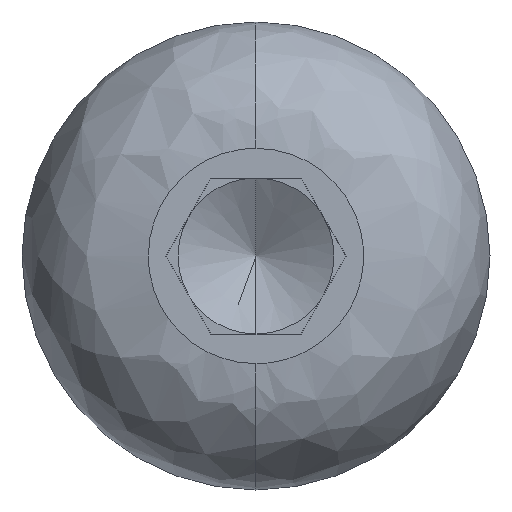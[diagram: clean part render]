
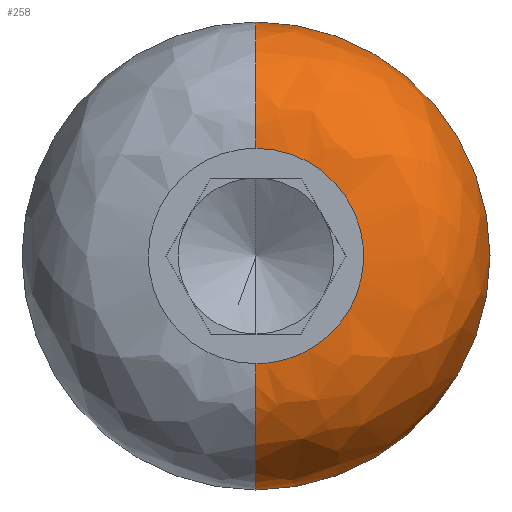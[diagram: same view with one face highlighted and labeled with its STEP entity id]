
A CAD part, left-side view. The second image highlights one B-rep face of the part: STEP entity #258.
In plain terms, the highlighted free-form (B-spline) face has degree [3, 3] with [4, 4] control points.
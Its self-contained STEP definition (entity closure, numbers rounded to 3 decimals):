
#16 = DIRECTION ( 'NONE',  ( 0., 0., -1. ) ) ;
#23 = DIRECTION ( 'NONE',  ( 0., -1., 0. ) ) ;
#42 = EDGE_LOOP ( 'NONE', ( #84, #428, #98, #142 ) ) ;
#61 = CARTESIAN_POINT ( 'NONE',  ( 0., 0., 2.76 ) ) ;
#66 = VERTEX_POINT ( 'NONE', #489 ) ;
#84 = ORIENTED_EDGE ( 'NONE', *, *, #320, .T. ) ;
#98 = ORIENTED_EDGE ( 'NONE', *, *, #205, .F. ) ;
#130 = EDGE_CURVE ( 'NONE', #186, #435, #166, .T. ) ;
#132 = DIRECTION ( 'NONE',  ( 0., 1., 0. ) ) ;
#142 = ORIENTED_EDGE ( 'NONE', *, *, #130, .F. ) ;
#166 = CIRCLE ( 'NONE', #613, 3.24 ) ;
#183 = DIRECTION ( 'NONE',  ( 0., 0., 1. ) ) ;
#184 = CARTESIAN_POINT ( 'NONE',  ( 3.24, 0., 2.76 ) ) ;
#186 = VERTEX_POINT ( 'NONE', #61 ) ;
#205 = EDGE_CURVE ( 'NONE', #435, #66, #633, .T. ) ;
#258 = ADVANCED_FACE ( 'NONE', ( #734 ), #720, .T. ) ;
#302 = VERTEX_POINT ( 'NONE', #598 ) ;
#320 = EDGE_CURVE ( 'NONE', #186, #302, #464, .T. ) ;
#372 = CARTESIAN_POINT ( 'NONE',  ( 3.24, 0., 6. ) ) ;
#405 = AXIS2_PLACEMENT_3D ( 'NONE', #545, #23, #16 ) ;
#428 = ORIENTED_EDGE ( 'NONE', *, *, #602, .T. ) ;
#435 = VERTEX_POINT ( 'NONE', #372 ) ;
#464 =( BOUNDED_CURVE ( )  B_SPLINE_CURVE ( 3, ( #535, #585, #525, #523 ),
 .UNSPECIFIED., .F., .F. ) 
 B_SPLINE_CURVE_WITH_KNOTS ( ( 4, 4 ),
 ( 0., 1. ),
 .UNSPECIFIED. ) 
 CURVE ( )  GEOMETRIC_REPRESENTATION_ITEM ( )  RATIONAL_B_SPLINE_CURVE ( ( 1., 0.333, 0.333, 1. ) ) 
 REPRESENTATION_ITEM ( '' )  );
#489 = CARTESIAN_POINT ( 'NONE',  ( 3.24, 0., -6. ) ) ;
#523 = CARTESIAN_POINT ( 'NONE',  ( 0., 0., -2.76 ) ) ;
#525 = CARTESIAN_POINT ( 'NONE',  ( 0., -5.52, -2.76 ) ) ;
#535 = CARTESIAN_POINT ( 'NONE',  ( 0., 0., 2.76 ) ) ;
#545 = CARTESIAN_POINT ( 'NONE',  ( 3.24, 0., -2.76 ) ) ;
#571 = AXIS2_PLACEMENT_3D ( 'NONE', #748, #746, #741 ) ;
#585 = CARTESIAN_POINT ( 'NONE',  ( 0., -5.52, 2.76 ) ) ;
#598 = CARTESIAN_POINT ( 'NONE',  ( 0., 0., -2.76 ) ) ;
#602 = EDGE_CURVE ( 'NONE', #302, #66, #730, .T. ) ;
#613 = AXIS2_PLACEMENT_3D ( 'NONE', #184, #132, #183 ) ;
#631 = CARTESIAN_POINT ( 'NONE',  ( 3.24, 0., 6. ) ) ;
#633 = CIRCLE ( 'NONE', #571, 6. ) ;
#635 = CARTESIAN_POINT ( 'NONE',  ( 3.24, -12., 6. ) ) ;
#639 = CARTESIAN_POINT ( 'NONE',  ( 3.24, -12., -6. ) ) ;
#645 = CARTESIAN_POINT ( 'NONE',  ( 3.24, 0., -6. ) ) ;
#648 = CARTESIAN_POINT ( 'NONE',  ( 1.342, 0., 6. ) ) ;
#651 = CARTESIAN_POINT ( 'NONE',  ( 1.342, -12., 6. ) ) ;
#652 = CARTESIAN_POINT ( 'NONE',  ( 1.342, -12., -6. ) ) ;
#654 = CARTESIAN_POINT ( 'NONE',  ( 1.342, 0., -6. ) ) ;
#656 = CARTESIAN_POINT ( 'NONE',  ( 0., 0., 4.658 ) ) ;
#667 = CARTESIAN_POINT ( 'NONE',  ( 0., -9.316, 4.658 ) ) ;
#672 = CARTESIAN_POINT ( 'NONE',  ( 0., -9.316, -4.658 ) ) ;
#673 = CARTESIAN_POINT ( 'NONE',  ( 0., 0., -4.658 ) ) ;
#677 = CARTESIAN_POINT ( 'NONE',  ( 0., 0., 2.76 ) ) ;
#687 = CARTESIAN_POINT ( 'NONE',  ( 0., -5.52, 2.76 ) ) ;
#689 = CARTESIAN_POINT ( 'NONE',  ( 0., 0., -2.76 ) ) ;
#720 =( BOUNDED_SURFACE ( )  B_SPLINE_SURFACE ( 3, 3, ( 
 ( #689, #751, #687, #677 ),
 ( #673, #672, #667, #656 ),
 ( #654, #652, #651, #648 ),
 ( #645, #639, #635, #631 ) ),
 .UNSPECIFIED., .F., .F., .T. ) 
 B_SPLINE_SURFACE_WITH_KNOTS ( ( 4, 4 ),
 ( 4, 4 ),
 ( 0., 1. ),
 ( 0., 1. ),
 .UNSPECIFIED. ) 
 GEOMETRIC_REPRESENTATION_ITEM ( )  RATIONAL_B_SPLINE_SURFACE ( (
 ( 1., 0.333, 0.333, 1.),
 ( 0.805, 0.268, 0.268, 0.805),
 ( 0.805, 0.268, 0.268, 0.805),
 ( 1., 0.333, 0.333, 1.) ) ) 
 REPRESENTATION_ITEM ( '' )  SURFACE ( )  );
#730 = CIRCLE ( 'NONE', #405, 3.24 ) ;
#734 = FACE_OUTER_BOUND ( 'NONE', #42, .T. ) ;
#741 = DIRECTION ( 'NONE',  ( 0., 0., 1. ) ) ;
#746 = DIRECTION ( 'NONE',  ( 1., 0., 0. ) ) ;
#748 = CARTESIAN_POINT ( 'NONE',  ( 3.24, 0., 0. ) ) ;
#751 = CARTESIAN_POINT ( 'NONE',  ( 0., -5.52, -2.76 ) ) ;
